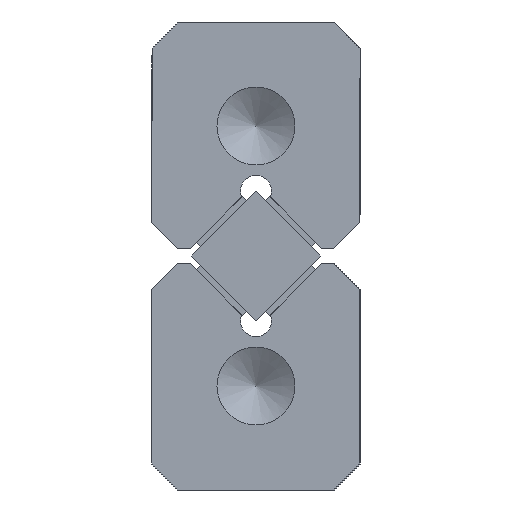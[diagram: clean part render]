
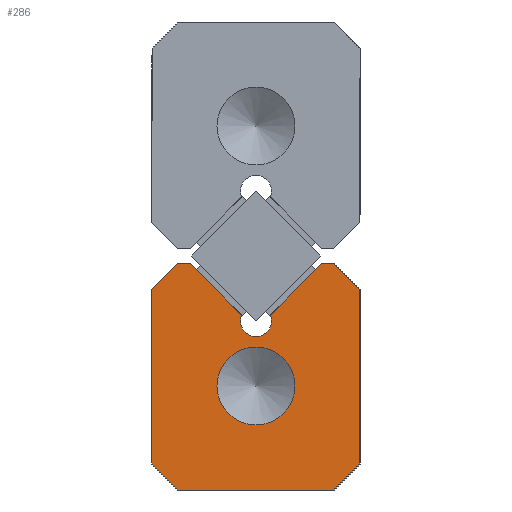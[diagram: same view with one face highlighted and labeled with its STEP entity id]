
A CAD part, left-side view. The second image highlights one B-rep face of the part: STEP entity #286.
In plain terms, the highlighted planar face has unit normal (-1, 0, 0).
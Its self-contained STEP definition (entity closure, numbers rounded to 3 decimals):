
#98=CARTESIAN_POINT('',(0.0,-3.,5.2));
#99=VERTEX_POINT('',#98);
#106=CARTESIAN_POINT('',(0.0,-4.0,4.2));
#107=VERTEX_POINT('',#106);
#108=CARTESIAN_POINT('',(0.0,-3.,5.2));
#109=DIRECTION('',(0.0,-0.707,-0.707));
#110=VECTOR('',#109,1.414);
#111=LINE('',#108,#110);
#112=EDGE_CURVE('',#99,#107,#111,.T.);
#129=CARTESIAN_POINT('',(0.0,-4.0,-2.5));
#130=VERTEX_POINT('',#129);
#131=CARTESIAN_POINT('',(0.0,-4.0,4.2));
#132=DIRECTION('',(0.0,0.0,-1.0));
#133=VECTOR('',#132,6.7);
#134=LINE('',#131,#133);
#135=EDGE_CURVE('',#107,#130,#134,.T.);
#187=CARTESIAN_POINT('',(0.0,0.,0.885));
#188=DIRECTION('',(1.0,0.0,0.0));
#189=DIRECTION('',(0.0,0.0,-1.0));
#190=AXIS2_PLACEMENT_3D('',#187,#188,#189);
#191=PLANE('',#190);
#192=ORIENTED_EDGE('',*,*,#112,.F.);
#193=CARTESIAN_POINT('',(0.0,-2.528,5.2));
#194=VERTEX_POINT('',#193);
#195=CARTESIAN_POINT('',(0.0,-2.528,5.2));
#196=DIRECTION('',(0.0,-1.0,0.0));
#197=VECTOR('',#196,0.472);
#198=LINE('',#195,#197);
#199=EDGE_CURVE('',#194,#99,#198,.T.);
#200=ORIENTED_EDGE('',*,*,#199,.F.);
#201=CARTESIAN_POINT('',(0.0,-0.555,3.227));
#202=VERTEX_POINT('',#201);
#203=CARTESIAN_POINT('',(0.0,-0.555,3.227));
#204=DIRECTION('',(0.0,-0.707,0.707));
#205=VECTOR('',#204,2.79);
#206=LINE('',#203,#205);
#207=EDGE_CURVE('',#202,#194,#206,.T.);
#208=ORIENTED_EDGE('',*,*,#207,.F.);
#209=CARTESIAN_POINT('',(0.0,0.555,3.227));
#210=VERTEX_POINT('',#209);
#211=CARTESIAN_POINT('',(0.0,0.0,3.));
#212=DIRECTION('',(-1.,0.0,0.0));
#213=DIRECTION('',(0.0,0.926,-0.378));
#214=AXIS2_PLACEMENT_3D('',#211,#212,#213);
#215=CIRCLE('',#214,0.6);
#216=EDGE_CURVE('',#210,#202,#215,.T.);
#217=ORIENTED_EDGE('',*,*,#216,.F.);
#218=CARTESIAN_POINT('',(0.0,2.528,5.2));
#219=VERTEX_POINT('',#218);
#220=CARTESIAN_POINT('',(0.0,2.528,5.2));
#221=DIRECTION('',(0.0,-0.707,-0.707));
#222=VECTOR('',#221,2.79);
#223=LINE('',#220,#222);
#224=EDGE_CURVE('',#219,#210,#223,.T.);
#225=ORIENTED_EDGE('',*,*,#224,.F.);
#226=CARTESIAN_POINT('',(0.0,3.,5.2));
#227=VERTEX_POINT('',#226);
#228=CARTESIAN_POINT('',(0.0,3.,5.2));
#229=DIRECTION('',(0.0,-1.0,0.0));
#230=VECTOR('',#229,0.472);
#231=LINE('',#228,#230);
#232=EDGE_CURVE('',#227,#219,#231,.T.);
#233=ORIENTED_EDGE('',*,*,#232,.F.);
#234=CARTESIAN_POINT('',(0.0,4.0,4.2));
#235=VERTEX_POINT('',#234);
#236=CARTESIAN_POINT('',(0.0,4.0,4.2));
#237=DIRECTION('',(0.0,-0.707,0.707));
#238=VECTOR('',#237,1.414);
#239=LINE('',#236,#238);
#240=EDGE_CURVE('',#235,#227,#239,.T.);
#241=ORIENTED_EDGE('',*,*,#240,.F.);
#242=CARTESIAN_POINT('',(0.0,4.0,-2.5));
#243=VERTEX_POINT('',#242);
#244=CARTESIAN_POINT('',(0.0,4.0,-2.5));
#245=DIRECTION('',(0.0,0.0,1.0));
#246=VECTOR('',#245,6.7);
#247=LINE('',#244,#246);
#248=EDGE_CURVE('',#243,#235,#247,.T.);
#249=ORIENTED_EDGE('',*,*,#248,.F.);
#250=CARTESIAN_POINT('',(0.0,3.,-3.5));
#251=VERTEX_POINT('',#250);
#252=CARTESIAN_POINT('',(0.0,3.,-3.5));
#253=DIRECTION('',(0.0,0.707,0.707));
#254=VECTOR('',#253,1.414);
#255=LINE('',#252,#254);
#256=EDGE_CURVE('',#251,#243,#255,.T.);
#257=ORIENTED_EDGE('',*,*,#256,.F.);
#258=CARTESIAN_POINT('',(0.0,-3.,-3.5));
#259=VERTEX_POINT('',#258);
#260=CARTESIAN_POINT('',(0.0,-3.,-3.5));
#261=DIRECTION('',(0.0,1.0,0.0));
#262=VECTOR('',#261,6.);
#263=LINE('',#260,#262);
#264=EDGE_CURVE('',#259,#251,#263,.T.);
#265=ORIENTED_EDGE('',*,*,#264,.F.);
#266=CARTESIAN_POINT('',(0.0,-4.0,-2.5));
#267=DIRECTION('',(0.0,0.707,-0.707));
#268=VECTOR('',#267,1.414);
#269=LINE('',#266,#268);
#270=EDGE_CURVE('',#130,#259,#269,.T.);
#271=ORIENTED_EDGE('',*,*,#270,.F.);
#272=ORIENTED_EDGE('',*,*,#135,.F.);
#273=EDGE_LOOP('',(#192,#200,#208,#217,#225,#233,#241,#249,#257,#265,#271,#272));
#274=FACE_OUTER_BOUND('',#273,.T.);
#275=CARTESIAN_POINT('',(0.0,1.5,0.5));
#276=VERTEX_POINT('',#275);
#277=CARTESIAN_POINT('',(0.0,0.0,0.5));
#278=DIRECTION('',(1.0,0.0,0.0));
#279=DIRECTION('',(0.0,1.0,0.0));
#280=AXIS2_PLACEMENT_3D('',#277,#278,#279);
#281=CIRCLE('',#280,1.5);
#282=EDGE_CURVE('',#276,#276,#281,.T.);
#283=ORIENTED_EDGE('',*,*,#282,.T.);
#284=EDGE_LOOP('',(#283));
#285=FACE_BOUND('',#284,.T.);
#286=ADVANCED_FACE('',(#274,#285),#191,.F.);
